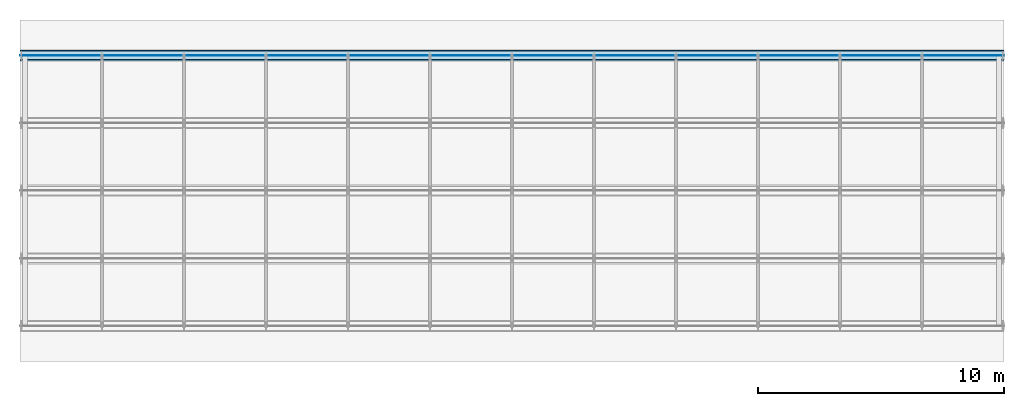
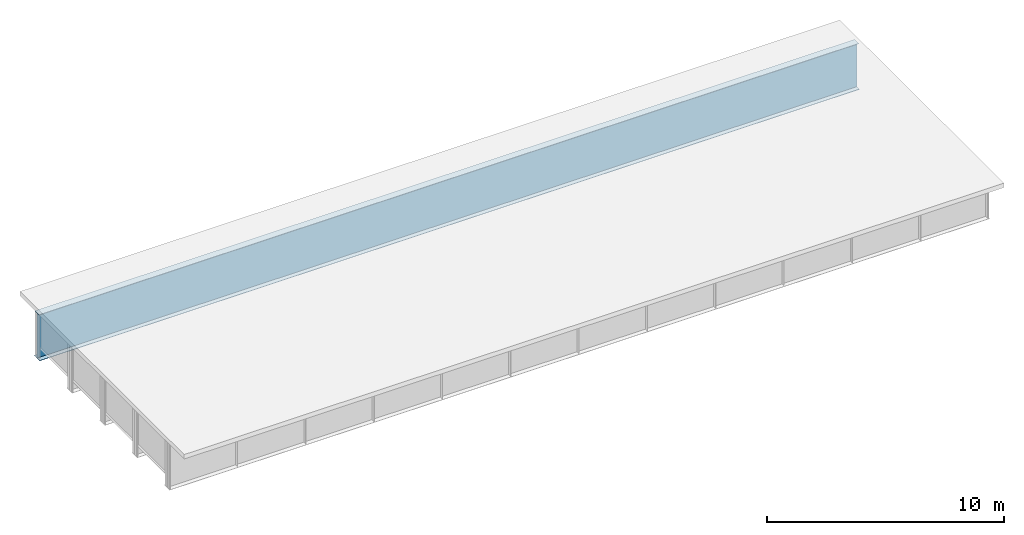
# One storey, part 17 of 19: 3 plates.
"""IFC4 building model written with IfcOpenShell, lengths in metres."""

from ifc_helpers import new_model, si_unit, frame, origin, origin_with_axes, origin_2d_with_axis, place, context, subcontext, project, spatial, rectangle, extrude, element, save


model = new_model("IFC4")

# Units and contexts
model_context = context("Model", 3, precision=1e-05, world=origin())
body_context = subcontext(model_context, "Body", "Model", "MODEL_VIEW")
ifc_project = project(units=[si_unit("LENGTHUNIT", "METRE"), si_unit("AREAUNIT", "SQUARE_METRE"), si_unit("VOLUMEUNIT", "CUBIC_METRE"), si_unit("PLANEANGLEUNIT", "RADIAN")], contexts=[model_context])

# Site, building, storey
site_placement = place(None, origin_with_axes())
site = spatial("IfcSite", under=ifc_project, at=site_placement, Name="Default Site")
building_placement = place(site_placement, origin_with_axes())
building = spatial("IfcBuilding", under=site, at=building_placement, Name="Bridge Structure")
storey_placement = place(building_placement, origin_with_axes())
storey = spatial("IfcBuildingStorey", under=building, at=storey_placement, Name="Superstructure")

# Plates
plate_1_placement = place(storey_placement, frame((0.0, 5.5, 0.0), z_axis=(1.0, 0.0, 0.0), x_axis=(0.0, 1.0, 0.0)))
element("IfcPlate", 1, at=plate_1_placement, inside=storey, Name="Girder Web 5", context=body_context, shape_type="SweptSolid", body=[
    extrude(rectangle(XDim=0.016, YDim=2.314, at=origin_2d_with_axis()), origin_with_axes(), (0.0, 0.0, 1.0), 40.0),
])
plate_2_placement = place(storey_placement, frame((0.0, 5.5, 1.165), z_axis=(1.0, 0.0, 0.0), x_axis=(0.0, 1.0, 0.0)))
element("IfcPlate", 2, at=plate_2_placement, inside=storey, Name="Top Flange 5", context=body_context, shape_type="SweptSolid", body=[
    extrude(rectangle(XDim=0.35000000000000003, YDim=0.016, at=origin_2d_with_axis()), origin_with_axes(), (0.0, 0.0, 1.0), 40.0),
])
plate_3_placement = place(storey_placement, frame((0.0, 5.5, -1.167), z_axis=(1.0, 0.0, 0.0), x_axis=(0.0, 1.0, 0.0)))
element("IfcPlate", 3, at=plate_3_placement, inside=storey, Name="Bottom Flange 5", context=body_context, shape_type="SweptSolid", body=[
    extrude(rectangle(XDim=0.45, YDim=0.02, at=origin_2d_with_axis()), origin_with_axes(), (0.0, 0.0, 1.0), 40.0),
])

save(model, "model.ifc")
